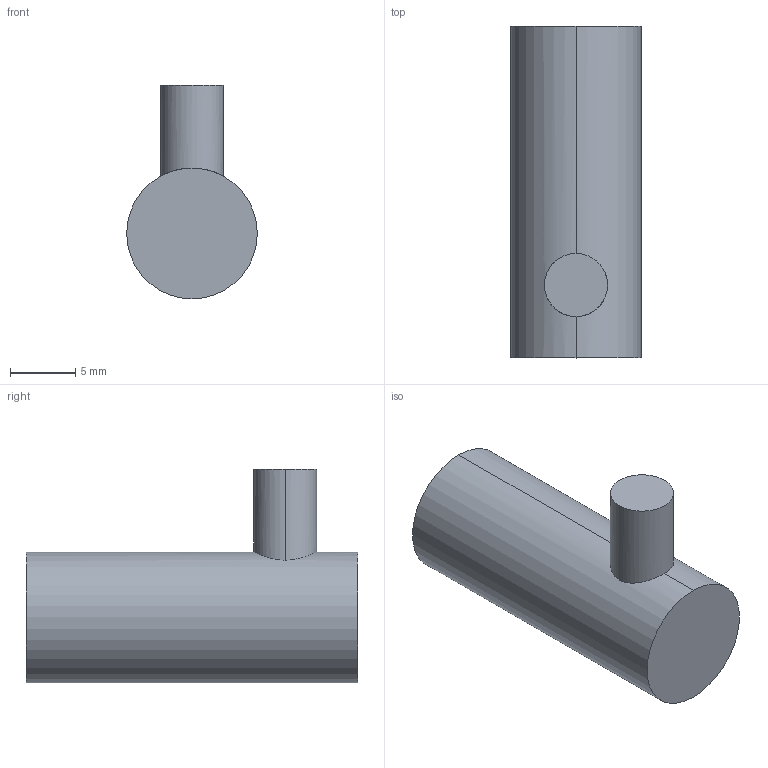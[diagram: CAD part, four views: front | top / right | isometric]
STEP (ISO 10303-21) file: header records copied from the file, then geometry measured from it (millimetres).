
FILE_DESCRIPTION (( 'STEP AP214' ), '1' );
FILE_NAME ('SS1165-2.5K.STEP', '2014-05-13T14:23:01', ( '' ), ( '' ), 'SwSTEP 2.0', 'SolidWorks 2008', '' );
FILE_SCHEMA (( 'AUTOMOTIVE_DESIGN' ));
Length unit declared in the file: inch
Products named in the file (1): SS1165-2.5K
Bounding box: 10.01 x 25.4 x 16.36 mm (x, y, z)
Volume: 2116.8 mm3; surface area: 1056.2 mm2
Topology: 1 solids, 1 shells, 7 faces, 15 edges, 10 vertices
Faces by surface type: cylinder 4, plane 3
Entity records: 278 total; most frequent: CARTESIAN_POINT 97, DIRECTION 33, ORIENTED_EDGE 30, EDGE_CURVE 15, AXIS2_PLACEMENT_3D 14, VERTEX_POINT 10, EDGE_LOOP 7, ADVANCED_FACE 7
